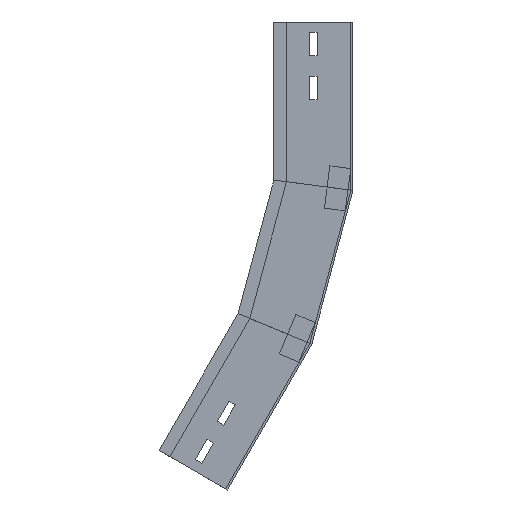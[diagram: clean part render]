
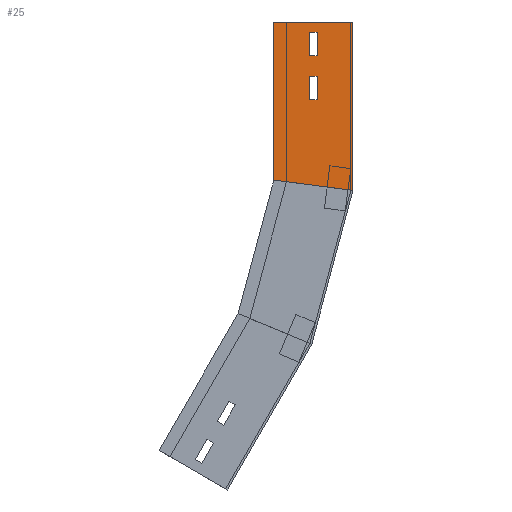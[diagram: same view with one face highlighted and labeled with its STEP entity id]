
A CAD part, left-side view. The second image highlights one B-rep face of the part: STEP entity #25.
In plain terms, the highlighted planar face has unit normal (-1, 0, 0) as drawn and (1, 0, 0) by its records, which use the part's own axes.
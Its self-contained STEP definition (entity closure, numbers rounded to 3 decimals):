
#3 = VERTEX_POINT ( 'NONE', #776 ) ;
#25 = ADVANCED_FACE ( 'NONE', ( #1199, #303, #552 ), #86, .F. ) ;
#35 = VECTOR ( 'NONE', #525, 1000. ) ;
#43 = ORIENTED_EDGE ( 'NONE', *, *, #435, .T. ) ;
#53 = CARTESIAN_POINT ( 'NONE',  ( 0., 128.686, -378.754 ) ) ;
#67 = EDGE_CURVE ( 'NONE', #1311, #897, #1414, .T. ) ;
#70 = EDGE_CURVE ( 'NONE', #1139, #594, #637, .T. ) ;
#71 = CARTESIAN_POINT ( 'NONE',  ( 0., 57.291, -298.012 ) ) ;
#74 = DIRECTION ( 'NONE',  ( 0., 0., 1. ) ) ;
#86 = PLANE ( 'NONE',  #707 ) ;
#90 = CARTESIAN_POINT ( 'NONE',  ( 0., 143.459, -418.342 ) ) ;
#105 = VERTEX_POINT ( 'NONE', #1073 ) ;
#121 = CARTESIAN_POINT ( 'NONE',  ( 0., 132.459, -399.289 ) ) ;
#149 = DIRECTION ( 'NONE',  ( 0., 0.866, 0.5 ) ) ;
#150 = CARTESIAN_POINT ( 'NONE',  ( 0., 128.686, -378.754 ) ) ;
#151 = DIRECTION ( 'NONE',  ( 0., -0.924, -0.383 ) ) ;
#154 = EDGE_CURVE ( 'NONE', #1264, #1150, #858, .T. ) ;
#164 = CARTESIAN_POINT ( 'NONE',  ( 0., 39.082, -305.555 ) ) ;
#184 = VECTOR ( 'NONE', #1489, 1000. ) ;
#185 = DIRECTION ( 'NONE',  ( 0., -0.866, -0.5 ) ) ;
#186 = VECTOR ( 'NONE', #151, 1000. ) ;
#201 = DIRECTION ( 'NONE',  ( 0., 0.5, -0.866 ) ) ;
#205 = CARTESIAN_POINT ( 'NONE',  ( 0., 108.971, -276.606 ) ) ;
#233 = CARTESIAN_POINT ( 'NONE',  ( 0., 117.686, -359.702 ) ) ;
#239 = ORIENTED_EDGE ( 'NONE', *, *, #676, .F. ) ;
#260 = EDGE_CURVE ( 'NONE', #105, #1139, #515, .T. ) ;
#278 = VECTOR ( 'NONE', #1297, 1000. ) ;
#281 = VECTOR ( 'NONE', #612, 1000. ) ;
#285 = EDGE_LOOP ( 'NONE', ( #545, #1216, #1020, #1412 ) ) ;
#287 = LINE ( 'NONE', #1194, #1440 ) ;
#303 = FACE_BOUND ( 'NONE', #285, .T. ) ;
#334 = CARTESIAN_POINT ( 'NONE',  ( 0., 118.932, -443.859 ) ) ;
#336 = EDGE_CURVE ( 'NONE', #596, #1264, #721, .T. ) ;
#342 = ORIENTED_EDGE ( 'NONE', *, *, #781, .F. ) ;
#401 = CARTESIAN_POINT ( 'NONE',  ( 0., 183.884, -406.359 ) ) ;
#435 = EDGE_CURVE ( 'NONE', #897, #1228, #795, .T. ) ;
#460 = DIRECTION ( 'NONE',  ( 0., 0.866, 0.5 ) ) ;
#462 = VERTEX_POINT ( 'NONE', #90 ) ;
#497 = DIRECTION ( 'NONE',  ( 0., 0.5, -0.866 ) ) ;
#498 = VECTOR ( 'NONE', #955, 1000. ) ;
#514 = EDGE_LOOP ( 'NONE', ( #1370, #673, #43, #342 ) ) ;
#515 = LINE ( 'NONE', #1094, #35 ) ;
#525 = DIRECTION ( 'NONE',  ( 0., -0.5, 0.866 ) ) ;
#545 = ORIENTED_EDGE ( 'NONE', *, *, #154, .F. ) ;
#552 = FACE_OUTER_BOUND ( 'NONE', #514, .T. ) ;
#556 = EDGE_LOOP ( 'NONE', ( #1115, #239, #615, #1126 ) ) ;
#573 = EDGE_CURVE ( 'NONE', #594, #462, #591, .T. ) ;
#576 = VECTOR ( 'NONE', #497, 1000. ) ;
#591 = LINE ( 'NONE', #716, #576 ) ;
#594 = VERTEX_POINT ( 'NONE', #121 ) ;
#596 = VERTEX_POINT ( 'NONE', #1211 ) ;
#612 = DIRECTION ( 'NONE',  ( 0., 0.866, 0.5 ) ) ;
#615 = ORIENTED_EDGE ( 'NONE', *, *, #573, .F. ) ;
#637 = LINE ( 'NONE', #1431, #1051 ) ;
#657 = CARTESIAN_POINT ( 'NONE',  ( 0., 122.624, -382.254 ) ) ;
#658 = LINE ( 'NONE', #893, #184 ) ;
#673 = ORIENTED_EDGE ( 'NONE', *, *, #67, .T. ) ;
#676 = EDGE_CURVE ( 'NONE', #462, #105, #287, .T. ) ;
#678 = VECTOR ( 'NONE', #201, 1000. ) ;
#684 = VECTOR ( 'NONE', #460, 1000. ) ;
#707 = AXIS2_PLACEMENT_3D ( 'NONE', #1095, #742, #74 ) ;
#716 = CARTESIAN_POINT ( 'NONE',  ( 0., 143.459, -418.342 ) ) ;
#721 = LINE ( 'NONE', #53, #281 ) ;
#742 = DIRECTION ( 'NONE',  ( -1., 0., 0. ) ) ;
#776 = CARTESIAN_POINT ( 'NONE',  ( 0., 111.624, -363.202 ) ) ;
#781 = EDGE_CURVE ( 'NONE', #992, #1228, #658, .T. ) ;
#795 = LINE ( 'NONE', #334, #684 ) ;
#825 = CARTESIAN_POINT ( 'NONE',  ( 0., 138.521, -395.789 ) ) ;
#858 = LINE ( 'NONE', #945, #278 ) ;
#887 = EDGE_CURVE ( 'NONE', #992, #1311, #971, .T. ) ;
#893 = CARTESIAN_POINT ( 'NONE',  ( 0., 104.034, -268.055 ) ) ;
#897 = VERTEX_POINT ( 'NONE', #1449 ) ;
#937 = CARTESIAN_POINT ( 'NONE',  ( 0., 117.686, -359.702 ) ) ;
#945 = CARTESIAN_POINT ( 'NONE',  ( 0., 128.686, -378.754 ) ) ;
#955 = DIRECTION ( 'NONE',  ( 0., 0.5, -0.866 ) ) ;
#971 = LINE ( 'NONE', #71, #186 ) ;
#992 = VERTEX_POINT ( 'NONE', #205 ) ;
#1002 = LINE ( 'NONE', #657, #678 ) ;
#1020 = ORIENTED_EDGE ( 'NONE', *, *, #1303, .F. ) ;
#1051 = VECTOR ( 'NONE', #185, 1000. ) ;
#1073 = CARTESIAN_POINT ( 'NONE',  ( 0., 149.521, -414.842 ) ) ;
#1094 = CARTESIAN_POINT ( 'NONE',  ( 0., 149.521, -414.842 ) ) ;
#1095 = CARTESIAN_POINT ( 'NONE',  ( 0., 39.082, -305.555 ) ) ;
#1113 = EDGE_CURVE ( 'NONE', #1150, #3, #1385, .T. ) ;
#1115 = ORIENTED_EDGE ( 'NONE', *, *, #260, .F. ) ;
#1126 = ORIENTED_EDGE ( 'NONE', *, *, #70, .F. ) ;
#1139 = VERTEX_POINT ( 'NONE', #825 ) ;
#1150 = VERTEX_POINT ( 'NONE', #937 ) ;
#1194 = CARTESIAN_POINT ( 'NONE',  ( 0., 149.521, -414.842 ) ) ;
#1199 = FACE_BOUND ( 'NONE', #556, .T. ) ;
#1211 = CARTESIAN_POINT ( 'NONE',  ( 0., 122.624, -382.254 ) ) ;
#1216 = ORIENTED_EDGE ( 'NONE', *, *, #336, .F. ) ;
#1228 = VERTEX_POINT ( 'NONE', #401 ) ;
#1264 = VERTEX_POINT ( 'NONE', #150 ) ;
#1267 = DIRECTION ( 'NONE',  ( 0., -0.866, -0.5 ) ) ;
#1284 = VECTOR ( 'NONE', #1267, 1000. ) ;
#1297 = DIRECTION ( 'NONE',  ( 0., -0.5, 0.866 ) ) ;
#1303 = EDGE_CURVE ( 'NONE', #3, #596, #1002, .T. ) ;
#1311 = VERTEX_POINT ( 'NONE', #1445 ) ;
#1370 = ORIENTED_EDGE ( 'NONE', *, *, #887, .T. ) ;
#1385 = LINE ( 'NONE', #233, #1284 ) ;
#1412 = ORIENTED_EDGE ( 'NONE', *, *, #1113, .F. ) ;
#1414 = LINE ( 'NONE', #164, #498 ) ;
#1431 = CARTESIAN_POINT ( 'NONE',  ( 0., 138.521, -395.789 ) ) ;
#1440 = VECTOR ( 'NONE', #149, 1000. ) ;
#1445 = CARTESIAN_POINT ( 'NONE',  ( 0., 39.082, -305.555 ) ) ;
#1449 = CARTESIAN_POINT ( 'NONE',  ( 0., 118.932, -443.859 ) ) ;
#1489 = DIRECTION ( 'NONE',  ( 0., 0.5, -0.866 ) ) ;
